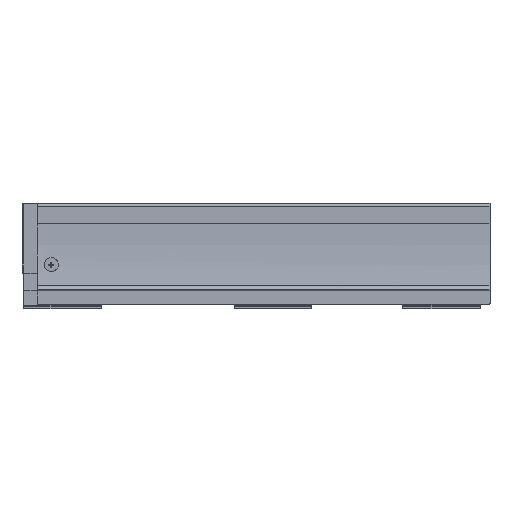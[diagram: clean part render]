
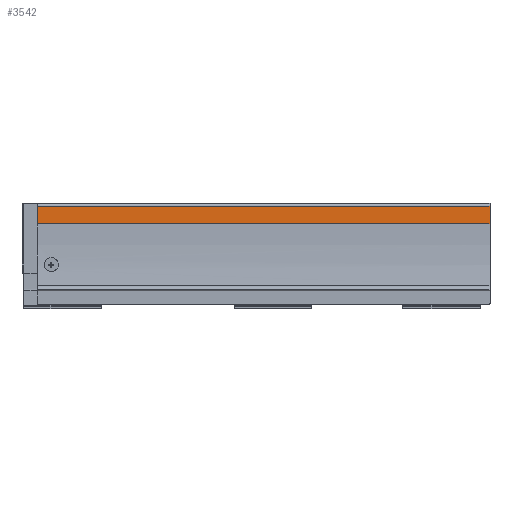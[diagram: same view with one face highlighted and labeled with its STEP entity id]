
A CAD part, left-side view. The second image highlights one B-rep face of the part: STEP entity #3542.
In plain terms, the highlighted planar face has unit normal (-1, 0, 0).
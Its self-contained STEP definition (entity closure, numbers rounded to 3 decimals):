
#22 = CARTESIAN_POINT ( 'NONE',  ( -19.87, 523.8, 57.888 ) ) ;
#141 = CARTESIAN_POINT ( 'NONE',  ( -19.87, 0., 78.498 ) ) ;
#148 = VERTEX_POINT ( 'NONE', #141 ) ;
#261 = VERTEX_POINT ( 'NONE', #22 ) ;
#283 = VERTEX_POINT ( 'NONE', #3572 ) ;
#397 = VERTEX_POINT ( 'NONE', #3675 ) ;
#1258 = ORIENTED_EDGE ( 'NONE', *, *, #3339, .F. ) ;
#1347 = EDGE_LOOP ( 'NONE', ( #1258, #3360, #3359, #3363 ) ) ;
#1786 = CARTESIAN_POINT ( 'NONE',  ( -19.87, 540., 78.498 ) ) ;
#1789 = DIRECTION ( 'NONE',  ( 0., -1., 0. ) ) ;
#2010 = CARTESIAN_POINT ( 'NONE',  ( -19.87, 523.8, 78.498 ) ) ;
#2011 = DIRECTION ( 'NONE',  ( 0., 0., 1. ) ) ;
#2152 = CARTESIAN_POINT ( 'NONE',  ( -19.87, 540., 78.498 ) ) ;
#2153 = PLANE ( 'NONE',  #2735 ) ;
#2155 = DIRECTION ( 'NONE',  ( 1., 0., 0. ) ) ;
#2156 = DIRECTION ( 'NONE',  ( 0., 0., 1. ) ) ;
#2250 = LINE ( 'NONE', #1786, #2443 ) ;
#2302 = VECTOR ( 'NONE', #2011, 1000. ) ;
#2348 = FACE_OUTER_BOUND ( 'NONE', #1347, .T. ) ;
#2443 = VECTOR ( 'NONE', #1789, 1000. ) ;
#2735 = AXIS2_PLACEMENT_3D ( 'NONE', #2152, #2155, #2156 ) ;
#2976 = EDGE_CURVE ( 'NONE', #261, #397, #4889, .T. ) ;
#2980 = EDGE_CURVE ( 'NONE', #397, #148, #4868, .T. ) ;
#3213 = EDGE_CURVE ( 'NONE', #283, #148, #2250, .T. ) ;
#3339 = EDGE_CURVE ( 'NONE', #261, #283, #3454, .T. ) ;
#3359 = ORIENTED_EDGE ( 'NONE', *, *, #2980, .T. ) ;
#3360 = ORIENTED_EDGE ( 'NONE', *, *, #2976, .T. ) ;
#3363 = ORIENTED_EDGE ( 'NONE', *, *, #3213, .F. ) ;
#3454 = LINE ( 'NONE', #2010, #2302 ) ;
#3542 = ADVANCED_FACE ( 'NONE', ( #2348 ), #2153, .F. ) ;
#3572 = CARTESIAN_POINT ( 'NONE',  ( -19.87, 523.8, 78.498 ) ) ;
#3675 = CARTESIAN_POINT ( 'NONE',  ( -19.87, 0., 57.888 ) ) ;
#4465 = CARTESIAN_POINT ( 'NONE',  ( -19.87, 540., 57.888 ) ) ;
#4466 = DIRECTION ( 'NONE',  ( 0., -1., 0. ) ) ;
#4473 = CARTESIAN_POINT ( 'NONE',  ( -19.87, 0., 78.498 ) ) ;
#4474 = DIRECTION ( 'NONE',  ( 0., 0., 1. ) ) ;
#4867 = VECTOR ( 'NONE', #4474, 1000. ) ;
#4868 = LINE ( 'NONE', #4473, #4867 ) ;
#4881 = VECTOR ( 'NONE', #4466, 1000. ) ;
#4889 = LINE ( 'NONE', #4465, #4881 ) ;
